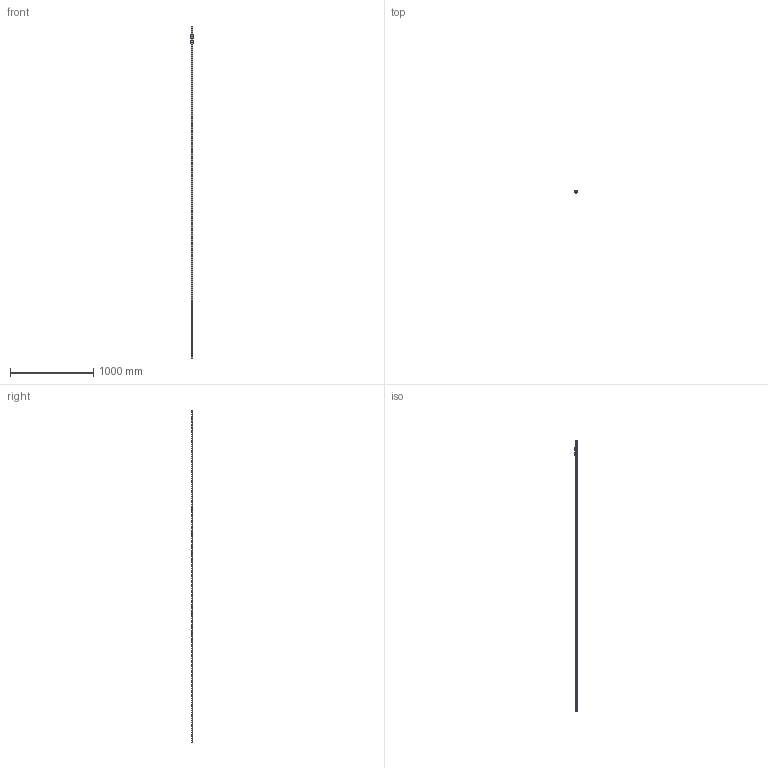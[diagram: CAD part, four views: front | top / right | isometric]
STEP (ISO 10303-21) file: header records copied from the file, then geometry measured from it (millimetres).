
FILE_DESCRIPTION((''),'2;1');
FILE_NAME('ASM0028_ASM','2020-11-24T16:02:29',('TWVS2025'),(''),'CREO PARAMETRIC BY PTC INC, 2018420','CREO PARAMETRIC BY PTC INC, 2018420','');
FILE_SCHEMA(('CONFIG_CONTROL_DESIGN'));
Products named in the file (5): BC-BRC15-SU_ASM_1_1_1; BRR15_CUSTOMER_1__1_1_2_3_4; BC-BRD15-SU_ASM_1_1_2_ASM; BRS15-SU_CUSTOMER_ASM_ASM_1_1_ASM; ASM0028_ASM
Assembly tree (4 placements, depth 3):
  ASM0028_ASM
    BRS15-SU_CUSTOMER_ASM_ASM_1_1_ASM
      BC-BRC15-SU_ASM_1_1_1
      BRR15_CUSTOMER_1__1_1_2_3_4
      BC-BRD15-SU_ASM_1_1_2_ASM
Bounding box: 33.95 x 24 x 4000 mm (x, y, z)
Volume: 710721.6 mm3; surface area: 273641.3 mm2
Topology: 1 solids, 12 shells, 3167 faces, 8770 edges, 5545 vertices
Faces by surface type: plane 1510, cylinder 948, cone 348, torus 300, bspline 44, sphere 13, extrusion 4
Entity records: 116478 total; most frequent: CARTESIAN_POINT 36716, ORIENTED_EDGE 17259, DIRECTION 15917, EDGE_CURVE 8742, AXIS2_PLACEMENT_3D 5692, VERTEX_POINT 5545, VECTOR 4533, LINE 4529
